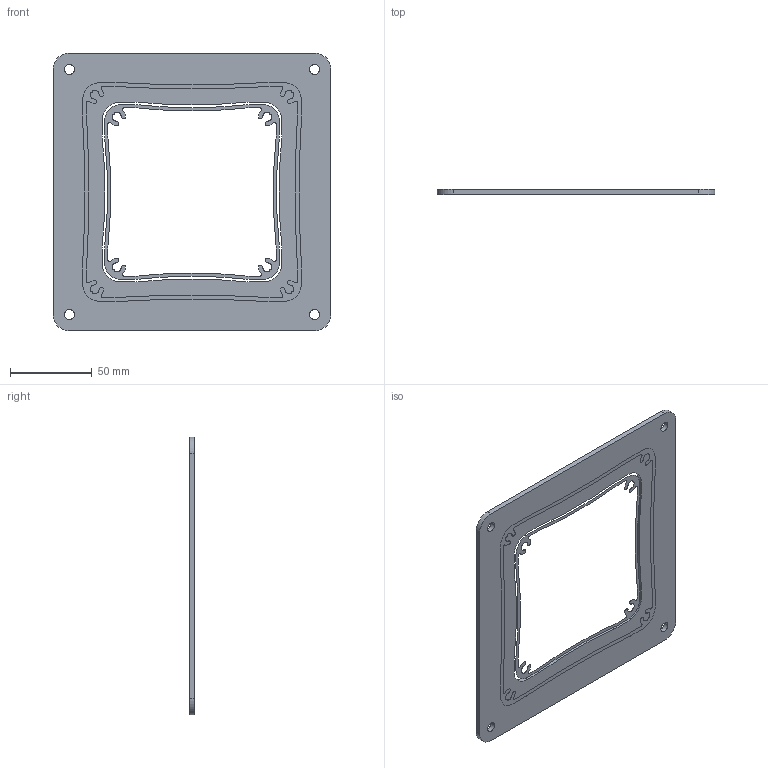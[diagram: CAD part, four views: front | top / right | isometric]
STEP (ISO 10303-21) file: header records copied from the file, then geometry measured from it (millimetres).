
FILE_DESCRIPTION((''),'2;1');
FILE_NAME('105-266','2017-08-04T',('Tomas Bellgran'),(''),'CREO PARAMETRIC BY PTC INC, 2016130','CREO PARAMETRIC BY PTC INC, 2016130','');
FILE_SCHEMA(('AUTOMOTIVE_DESIGN { 1 0 10303 214 1 1 1 1 }'));
Length unit declared in the file: millimetre
Products named in the file (1): 105-266
Bounding box: 170 x 3 x 170 mm (x, y, z)
Volume: 51161.2 mm3; surface area: 40042.8 mm2
Topology: 1 solids, 3 shells, 44 faces, 404 edges, 364 vertices
Faces by surface type: cylinder 28, plane 16
Entity records: 4398 total; most frequent: CARTESIAN_POINT 839, DIRECTION 730, ORIENTED_EDGE 524, EDGE_CURVE 404, VERTEX_POINT 364, AXIS2_PLACEMENT_3D 285, CIRCLE 240, VECTOR 160
